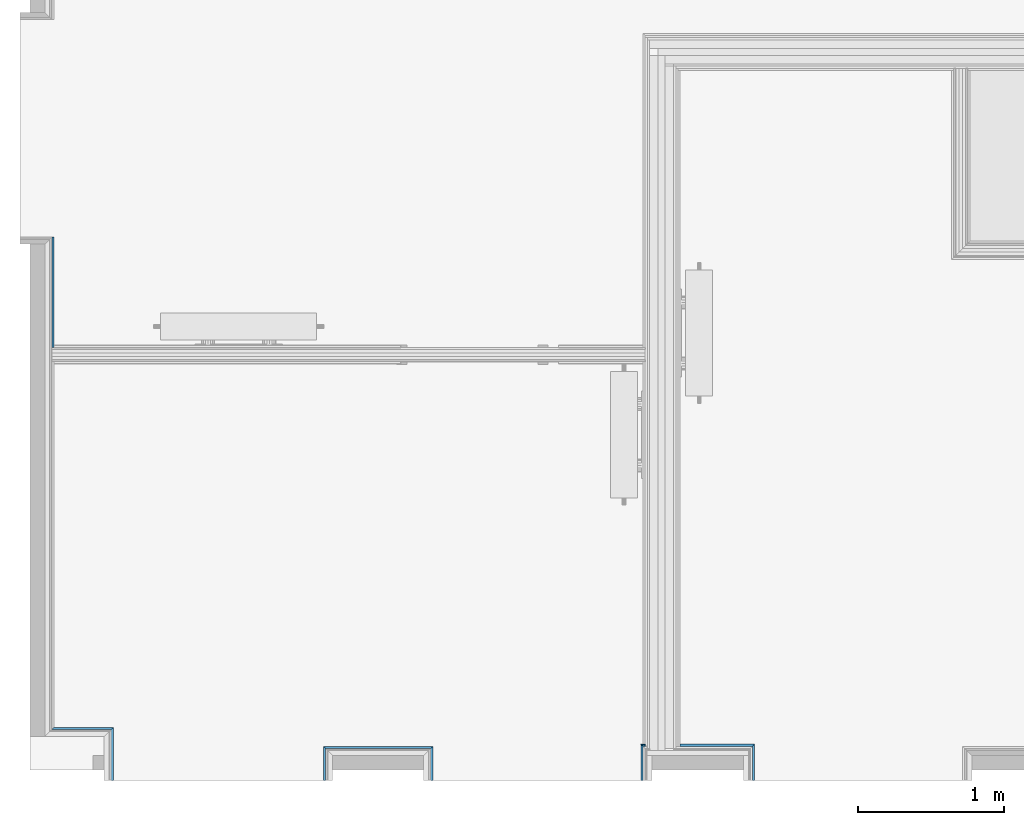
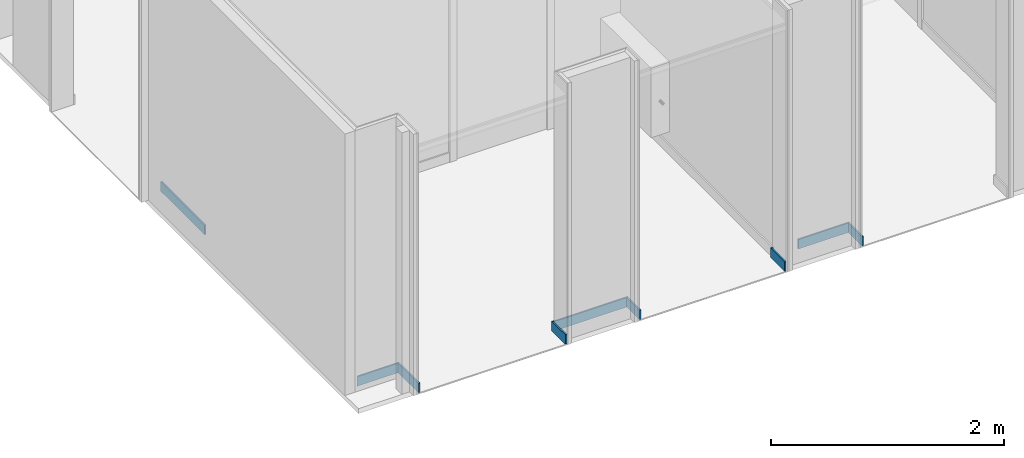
# One storey, part 25 of 85: 10 building element parts, 9 elements without a shape of their own.
"""IFC2X3 building model written with IfcOpenShell, lengths in metres."""

from ifc_helpers import new_model, entity, si_unit, converted_unit, derived_unit, money_unit, direction, frame, frame_2d, origin_with_axes, place, context, subcontext, project, spatial, polyline, rectangle, outline, extrude, material, type_object, element, aggregate, save


model = new_model("IFC2X3")

# Units and contexts
model_context = context("Model", 3, precision=1e-05, world=origin_with_axes(), true_north=direction((0.0, 1.0)))
body_context = subcontext(model_context, "Body", "Model", "MODEL_VIEW", scale=1.0)
ifc_project = project(units=[si_unit("LENGTHUNIT", "METRE"), si_unit("AREAUNIT", "SQUARE_METRE"), si_unit("VOLUMEUNIT", "CUBIC_METRE"), si_unit("ABSORBEDDOSEUNIT", "GRAY"), si_unit("AMOUNTOFSUBSTANCEUNIT", "MOLE"), si_unit("DOSEEQUIVALENTUNIT", "SIEVERT"), si_unit("ELECTRICCAPACITANCEUNIT", "FARAD"), si_unit("ELECTRICCHARGEUNIT", "COULOMB"), si_unit("ELECTRICCONDUCTANCEUNIT", "SIEMENS"), si_unit("ELECTRICCURRENTUNIT", "AMPERE"), si_unit("ELECTRICRESISTANCEUNIT", "OHM"), si_unit("ELECTRICVOLTAGEUNIT", "VOLT"), si_unit("ENERGYUNIT", "JOULE"), si_unit("FORCEUNIT", "NEWTON"), si_unit("FREQUENCYUNIT", "HERTZ"), si_unit("ILLUMINANCEUNIT", "LUX"), si_unit("INDUCTANCEUNIT", "HENRY"), si_unit("LUMINOUSFLUXUNIT", "LUMEN"), si_unit("LUMINOUSINTENSITYUNIT", "CANDELA"), si_unit("MAGNETICFLUXDENSITYUNIT", "TESLA"), si_unit("MAGNETICFLUXUNIT", "WEBER"), si_unit("MASSUNIT", "GRAM"), converted_unit("PLANEANGLEUNIT", "degree", entity("IfcReal", 0.0174532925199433), si_unit("PLANEANGLEUNIT", "RADIAN"), dimensions=[0, 0, 0, 0, 0, 0, 0]), si_unit("POWERUNIT", "WATT"), si_unit("PRESSUREUNIT", "PASCAL"), si_unit("RADIOACTIVITYUNIT", "BECQUEREL"), si_unit("SOLIDANGLEUNIT", "STERADIAN"), si_unit("THERMODYNAMICTEMPERATUREUNIT", "KELVIN"), si_unit("TIMEUNIT", "SECOND"), derived_unit("ACCELERATIONUNIT", [(si_unit("LENGTHUNIT", "METRE"), 1), (si_unit("TIMEUNIT", "SECOND"), -2)]), derived_unit("ANGULARVELOCITYUNIT", [(converted_unit("PLANEANGLEUNIT", "degree", entity("IfcReal", 0.0174532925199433), si_unit("PLANEANGLEUNIT", "RADIAN"), dimensions=[0, 0, 0, 0, 0, 0, 0]), 1), (si_unit("TIMEUNIT", "SECOND"), -1)]), derived_unit("CURVATUREUNIT", [(converted_unit("PLANEANGLEUNIT", "degree", entity("IfcReal", 0.0174532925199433), si_unit("PLANEANGLEUNIT", "RADIAN"), dimensions=[0, 0, 0, 0, 0, 0, 0]), 1), (si_unit("LENGTHUNIT", "METRE"), -1)]), derived_unit("DYNAMICVISCOSITYUNIT", [(si_unit("PRESSUREUNIT", "PASCAL"), 1), (si_unit("TIMEUNIT", "SECOND"), 1)]), derived_unit("HEATFLUXDENSITYUNIT", [(si_unit("POWERUNIT", "WATT"), 1), (si_unit("LENGTHUNIT", "METRE"), -2)]), derived_unit("HEATINGVALUEUNIT", [(si_unit("ENERGYUNIT", "JOULE"), 1), (si_unit("MASSUNIT", "GRAM"), -1)]), derived_unit("INTEGERCOUNTRATEUNIT", [(si_unit("TIMEUNIT", "SECOND"), -1)]), derived_unit("IONCONCENTRATIONUNIT", [(si_unit("MASSUNIT", "GRAM"), 1), (si_unit("VOLUMEUNIT", "CUBIC_METRE"), -1)]), derived_unit("ISOTHERMALMOISTURECAPACITYUNIT", [(si_unit("VOLUMEUNIT", "CUBIC_METRE"), 1), (si_unit("MASSUNIT", "GRAM"), -1)]), derived_unit("KINEMATICVISCOSITYUNIT", [(si_unit("AREAUNIT", "SQUARE_METRE"), 1), (si_unit("TIMEUNIT", "SECOND"), -1)]), derived_unit("LINEARFORCEUNIT", [(si_unit("FORCEUNIT", "NEWTON"), 1), (si_unit("LENGTHUNIT", "METRE"), -1)]), derived_unit("LINEARMOMENTUNIT", [(si_unit("FORCEUNIT", "NEWTON"), 1), (si_unit("LENGTHUNIT", "METRE"), -1)]), derived_unit("LINEARSTIFFNESSUNIT", [(si_unit("FORCEUNIT", "NEWTON"), 1), (si_unit("LENGTHUNIT", "METRE"), -1)]), derived_unit("LINEARVELOCITYUNIT", [(si_unit("LENGTHUNIT", "METRE"), 1), (si_unit("TIMEUNIT", "SECOND"), -1)]), derived_unit("LUMINOUSINTENSITYDISTRIBUTIONUNIT", [(si_unit("LUMINOUSINTENSITYUNIT", "CANDELA"), 1), (si_unit("LUMINOUSFLUXUNIT", "LUMEN"), -1)]), derived_unit("MASSDENSITYUNIT", [(si_unit("MASSUNIT", "GRAM"), 1), (si_unit("VOLUMEUNIT", "CUBIC_METRE"), -1)]), derived_unit("MASSFLOWRATEUNIT", [(si_unit("MASSUNIT", "GRAM"), 1), (si_unit("TIMEUNIT", "SECOND"), -1)]), derived_unit("MASSPERLENGTHUNIT", [(si_unit("MASSUNIT", "GRAM"), 1), (si_unit("LENGTHUNIT", "METRE"), -1)]), derived_unit("MODULUSOFELASTICITYUNIT", [(si_unit("FORCEUNIT", "NEWTON"), 1), (si_unit("AREAUNIT", "SQUARE_METRE"), -1)]), derived_unit("MODULUSOFLINEARSUBGRADEREACTIONUNIT", [(si_unit("FORCEUNIT", "NEWTON"), 1), (si_unit("LENGTHUNIT", "METRE"), -2)]), derived_unit("MODULUSOFROTATIONALSUBGRADEREACTIONUNIT", [(si_unit("FORCEUNIT", "NEWTON"), 1), (si_unit("LENGTHUNIT", "METRE"), 1)]), derived_unit("MODULUSOFSUBGRADEREACTIONUNIT", [(si_unit("FORCEUNIT", "NEWTON"), 1), (si_unit("VOLUMEUNIT", "CUBIC_METRE"), -1)]), derived_unit("MOISTUREDIFFUSIVITYUNIT", [(si_unit("VOLUMEUNIT", "CUBIC_METRE"), 1), (si_unit("TIMEUNIT", "SECOND"), -1)]), derived_unit("MOLECULARWEIGHTUNIT", [(si_unit("MASSUNIT", "GRAM"), 1), (si_unit("AMOUNTOFSUBSTANCEUNIT", "MOLE"), -1)]), derived_unit("PLANARFORCEUNIT", [(si_unit("FORCEUNIT", "NEWTON"), 1), (si_unit("LENGTHUNIT", "METRE"), -2)]), derived_unit("ROTATIONALFREQUENCYUNIT", [(si_unit("TIMEUNIT", "SECOND"), -1)]), derived_unit("ROTATIONALMASSUNIT", [(si_unit("MASSUNIT", "GRAM"), 1), (si_unit("LENGTHUNIT", "METRE"), 2)]), derived_unit("ROTATIONALSTIFFNESSUNIT", [(si_unit("FORCEUNIT", "NEWTON"), 1), (si_unit("LENGTHUNIT", "METRE"), 1), (converted_unit("PLANEANGLEUNIT", "degree", entity("IfcReal", 0.0174532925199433), si_unit("PLANEANGLEUNIT", "RADIAN"), dimensions=[0, 0, 0, 0, 0, 0, 0]), -1)]), derived_unit("SECTIONAREAINTEGRALUNIT", [(si_unit("LENGTHUNIT", "METRE"), 5)]), derived_unit("SECTIONMODULUSUNIT", [(si_unit("LENGTHUNIT", "METRE"), 3)]), derived_unit("SHEARMODULUSUNIT", [(si_unit("FORCEUNIT", "NEWTON"), 1), (si_unit("AREAUNIT", "SQUARE_METRE"), -1)]), derived_unit("SOUNDPOWERUNIT", [(si_unit("ENERGYUNIT", "JOULE"), 1), (si_unit("TIMEUNIT", "SECOND"), -1)]), derived_unit("SPECIFICHEATCAPACITYUNIT", [(si_unit("FORCEUNIT", "NEWTON"), 1), (si_unit("MASSUNIT", "GRAM"), -1), (si_unit("THERMODYNAMICTEMPERATUREUNIT", "KELVIN"), -1)]), derived_unit("TEMPERATUREGRADIENTUNIT", [(si_unit("THERMODYNAMICTEMPERATUREUNIT", "KELVIN"), 1), (si_unit("LENGTHUNIT", "METRE"), -1)]), derived_unit("THERMALADMITTANCEUNIT", [(si_unit("POWERUNIT", "WATT"), 1), (si_unit("AREAUNIT", "SQUARE_METRE"), -1), (si_unit("THERMODYNAMICTEMPERATUREUNIT", "KELVIN"), -1)]), derived_unit("THERMALCONDUCTANCEUNIT", [(si_unit("POWERUNIT", "WATT"), 1), (si_unit("LENGTHUNIT", "METRE"), -1), (si_unit("THERMODYNAMICTEMPERATUREUNIT", "KELVIN"), -1)]), derived_unit("THERMALEXPANSIONCOEFFICIENTUNIT", [(si_unit("THERMODYNAMICTEMPERATUREUNIT", "KELVIN"), -1)]), derived_unit("THERMALRESISTANCEUNIT", [(si_unit("AREAUNIT", "SQUARE_METRE"), 1), (si_unit("POWERUNIT", "WATT"), -1)]), derived_unit("THERMALTRANSMITTANCEUNIT", [(si_unit("POWERUNIT", "WATT"), 1), (si_unit("AREAUNIT", "SQUARE_METRE"), -1), (si_unit("THERMODYNAMICTEMPERATUREUNIT", "KELVIN"), -1)]), derived_unit("TORQUEUNIT", [(si_unit("FORCEUNIT", "NEWTON"), 1), (si_unit("LENGTHUNIT", "METRE"), 1)]), derived_unit("VAPORPERMEABILITYUNIT", [(si_unit("MASSUNIT", "GRAM"), 1), (si_unit("TIMEUNIT", "SECOND"), -1)]), derived_unit("VOLUMETRICFLOWRATEUNIT", [(si_unit("VOLUMEUNIT", "CUBIC_METRE"), 1), (si_unit("TIMEUNIT", "SECOND"), -1)]), derived_unit("WARPINGCONSTANTUNIT", [(si_unit("LENGTHUNIT", "METRE"), 6)]), derived_unit("WARPINGMOMENTUNIT", [(si_unit("FORCEUNIT", "NEWTON"), 1), (si_unit("LENGTHUNIT", "METRE"), 2)]), money_unit("GBP")], contexts=[model_context])

# Site, building, storey
site_placement = place(None, origin_with_axes())
site = spatial("IfcSite", under=ifc_project, at=site_placement, Name="Site", CompositionType="ELEMENT")
building_placement = place(site_placement, origin_with_axes())
building = spatial("IfcBuilding", under=site, at=building_placement, Name="Building01", CompositionType="ELEMENT")
storey_placement = place(building_placement, frame((0.0, 0.0, 12.13), z_axis=(0.0, 0.0, 1.0), x_axis=(1.0, 0.0, 0.0)))
storey = spatial("IfcBuildingStorey", under=building, at=storey_placement, Name="3F", CompositionType="ELEMENT", Elevation=12.13)

# Wall, building element part
wall_type_1 = type_object("IfcWallType", Name="SHE_A-Walls_Type06d_ExternalWallInsulation_48mm", PredefinedType="NOTDEFINED")
wall_1_placement = place(storey_placement, frame((0.27, 0.4, 0.0), z_axis=(0.0, 0.0, 1.0), x_axis=(1.0, 0.0, 0.0)))
wall_1 = element("IfcWall", 1, at=wall_1_placement, inside=storey, type_object=wall_type_1, Name="6D", ObjectType="SHE_A-Walls_Type06d_ExternalWallInsulation_48mm")
ifc_material = material(Name="A_BSUK_Walls_Timber")
building_element_part_1_placement = place(wall_1_placement, origin_with_axes())
building_element_part_1 = element("IfcBuildingElementPart", 2, at=building_element_part_1_placement, material=ifc_material, Name="3", context=body_context, shape_type="SweptSolid", body=[
    extrude(outline(polyline([(0.47, 0.063), (0.063, 0.063), (0.048, 0.048), (0.455, 0.048), (0.47, 0.063)])), frame((0.0, 0.0, 0.015), z_axis=(0.0, 0.0, 1.0), x_axis=(1.0, 0.0, 0.0)), (0.0, 0.0, 1.0), 0.1),
])
aggregate(wall_1, [building_element_part_1])

wall_2_placement = place(storey_placement, frame((0.677, 0.4, 0.0), z_axis=(0.0, 0.0, 1.0), x_axis=(0.0, -1.0, 0.0)))
wall_2 = element("IfcWall", 3, at=wall_2_placement, inside=storey, type_object=wall_type_1, Name="6D", ObjectType="SHE_A-Walls_Type06d_ExternalWallInsulation_48mm")
building_element_part_2_placement = place(wall_2_placement, origin_with_axes())
building_element_part_2 = element("IfcBuildingElementPart", 4, at=building_element_part_2_placement, material=ifc_material, Name="3", context=body_context, shape_type="SweptSolid", body=[
    extrude(outline(polyline([(-0.063, 0.063), (-0.048, 0.048), (0.3, 0.048), (0.3, 0.063), (-0.063, 0.063)])), frame((0.0, 0.0, 0.015), z_axis=(0.0, 0.0, 1.0), x_axis=(1.0, 0.0, 0.0)), (0.0, 0.0, 1.0), 0.1),
])
aggregate(wall_2, [building_element_part_2])

wall_3_placement = place(storey_placement, frame((2.243, 0.1, 0.0), z_axis=(0.0, 0.0, 1.0), x_axis=(0.0, 1.0, 0.0)))
wall_3 = element("IfcWall", 5, at=wall_3_placement, inside=storey, type_object=wall_type_1, Name="6D", ObjectType="SHE_A-Walls_Type06d_ExternalWallInsulation_48mm")
building_element_part_3_placement = place(wall_3_placement, origin_with_axes())
building_element_part_3 = element("IfcBuildingElementPart", 6, at=building_element_part_3_placement, material=ifc_material, Name="3", context=body_context, shape_type="SweptSolid", body=[
    extrude(outline(polyline([(0.233, 0.063), (0.0, 0.063), (0.0, 0.048), (0.218, 0.048), (0.233, 0.063)])), frame((0.0, 0.0, 0.015), z_axis=(0.0, 0.0, 1.0), x_axis=(1.0, 0.0, 0.0)), (0.0, 0.0, 1.0), 0.1),
])
aggregate(wall_3, [building_element_part_3])

wall_4_placement = place(storey_placement, frame((2.243, 0.27, 0.0), z_axis=(0.0, 0.0, 1.0), x_axis=(1.0, 0.0, 0.0)))
wall_4 = element("IfcWall", 7, at=wall_4_placement, inside=storey, type_object=wall_type_1, Name="6D", ObjectType="SHE_A-Walls_Type06d_ExternalWallInsulation_48mm")
building_element_part_4_placement = place(wall_4_placement, origin_with_axes())
building_element_part_4 = element("IfcBuildingElementPart", 8, at=building_element_part_4_placement, material=ifc_material, Name="3", context=body_context, shape_type="SweptSolid", body=[
    extrude(outline(polyline([(0.687, 0.063), (-0.063, 0.063), (-0.048, 0.048), (0.672, 0.048), (0.687, 0.063)])), frame((0.0, 0.0, 0.015), z_axis=(0.0, 0.0, 1.0), x_axis=(1.0, 0.0, 0.0)), (0.0, 0.0, 1.0), 0.1),
])
aggregate(wall_4, [building_element_part_4])

wall_5_placement = place(storey_placement, frame((2.867, 0.27, 0.0), z_axis=(0.0, 0.0, 1.0), x_axis=(0.0, -1.0, 0.0)))
wall_5 = element("IfcWall", 9, at=wall_5_placement, inside=storey, type_object=wall_type_1, Name="6D", ObjectType="SHE_A-Walls_Type06d_ExternalWallInsulation_48mm")
building_element_part_5_placement = place(wall_5_placement, origin_with_axes())
building_element_part_5 = element("IfcBuildingElementPart", 10, at=building_element_part_5_placement, material=ifc_material, Name="3", context=body_context, shape_type="SweptSolid", body=[
    extrude(outline(polyline([(-0.063, 0.063), (-0.048, 0.048), (0.17, 0.048), (0.17, 0.063), (-0.063, 0.063)])), frame((0.0, 0.0, 0.015), z_axis=(0.0, 0.0, 1.0), x_axis=(1.0, 0.0, 0.0)), (0.0, 0.0, 1.0), 0.1),
])
aggregate(wall_5, [building_element_part_5])

wall_6_placement = place(storey_placement, frame((0.27, 3.77418, 0.0), z_axis=(0.0, 0.0, 1.0), x_axis=(0.0, -1.0, 0.0)))
wall_6 = element("IfcWall", 11, at=wall_6_placement, inside=storey, type_object=wall_type_1, Name="6D", ObjectType="SHE_A-Walls_Type06d_ExternalWallInsulation_48mm")
building_element_part_6_placement = place(wall_6_placement, origin_with_axes())
building_element_part_6 = element("IfcBuildingElementPart", 12, at=building_element_part_6_placement, material=ifc_material, Name="3", context=body_context, shape_type="SweptSolid", body=[
    extrude(rectangle(XDim=0.756894, YDim=0.015, at=frame_2d((0.330447, 0.0555), x_axis=(-1.0, 0.0))), frame((0.0, 0.0, 0.015), z_axis=(0.0, 0.0, 1.0), x_axis=(1.0, 0.0, 0.0)), (0.0, 0.0, 1.0), 0.1),
])
aggregate(wall_6, [building_element_part_6])

wall_type_2 = type_object("IfcWallType", Name="SHE_A-Walls_Type06f_ExternalWallInsulation_48+15mm", PredefinedType="NOTDEFINED")
wall_7_placement = place(storey_placement, frame((4.433, 0.1, 0.0), z_axis=(0.0, 0.0, 1.0), x_axis=(0.0, -1.0, 0.0)))
wall_7 = element("IfcWall", 13, at=wall_7_placement, inside=storey, type_object=wall_type_2, Name="6F", ObjectType="SHE_A-Walls_Type06f_ExternalWallInsulation_48+15mm")
building_element_part_7_placement = place(wall_7_placement, origin_with_axes())
building_element_part_7 = element("IfcBuildingElementPart", 14, at=building_element_part_7_placement, material=ifc_material, Name="1", context=body_context, shape_type="SweptSolid", body=[
    extrude(outline(polyline([(-0.248, -0.078), (0.0, -0.078), (0.0, -0.063), (-0.233, -0.063), (-0.248, -0.078)])), frame((0.0, 0.0, 0.015), z_axis=(0.0, 0.0, 1.0), x_axis=(1.0, 0.0, 0.0)), (0.0, 0.0, 1.0), 0.1),
])
aggregate(wall_7, [building_element_part_7])

wall_8_placement = place(storey_placement, frame((5.057124, 0.1, 0.0), z_axis=(0.0, 0.0, 1.0), x_axis=(0.0, -1.0, 0.0)))
wall_8 = element("IfcWall", 15, at=wall_8_placement, inside=storey, type_object=wall_type_2, Name="6F", ObjectType="SHE_A-Walls_Type06f_ExternalWallInsulation_48+15mm")
building_element_part_8_placement = place(wall_8_placement, origin_with_axes())
building_element_part_8 = element("IfcBuildingElementPart", 16, at=building_element_part_8_placement, material=ifc_material, Name="4", context=body_context, shape_type="SweptSolid", body=[
    extrude(outline(polyline([(-0.233, 0.063), (0.0, 0.063), (0.0, 0.078), (-0.248, 0.078), (-0.233, 0.063)])), frame((0.0, 0.0, 0.015), z_axis=(0.0, 0.0, 1.0), x_axis=(1.0, 0.0, 0.0)), (0.0, 0.0, 1.0), 0.1),
])
aggregate(wall_8, [building_element_part_8])

# Wall, building element parts
wall_9_placement = place(storey_placement, frame((5.093124, 0.27, 0.0), z_axis=(0.0, 0.0, 1.0), x_axis=(-1.0, 0.0, 0.0)))
wall_9 = element("IfcWall", 17, at=wall_9_placement, inside=storey, type_object=wall_type_2, Name="6F", ObjectType="SHE_A-Walls_Type06f_ExternalWallInsulation_48+15mm")
placement = place(wall_9_placement, origin_with_axes())
building_element_part_9 = element("IfcBuildingElementPart", 18, at=placement, material=ifc_material, Name="1", context=body_context, shape_type="SweptSolid", body=[
    extrude(outline(polyline([(0.468124, -0.063), (-0.027, -0.063), (-0.042, -0.078), (0.468124, -0.078), (0.468124, -0.063)])), frame((0.0, 0.0, 0.015), z_axis=(0.0, 0.0, 1.0), x_axis=(1.0, 0.0, 0.0)), (0.0, 0.0, 1.0), 0.1),
])
building_element_part_10 = element("IfcBuildingElementPart", 19, at=placement, material=ifc_material, Name="2", context=body_context, shape_type="SweptSolid", body=[
    extrude(outline(polyline([(0.723124, -0.063), (0.70823, -0.063), (0.70823, -0.078), (0.738124, -0.078), (0.723124, -0.063)])), frame((0.0, 0.0, 0.015), z_axis=(0.0, 0.0, 1.0), x_axis=(1.0, 0.0, 0.0)), (0.0, 0.0, 1.0), 0.1),
])
aggregate(wall_9, [building_element_part_9, building_element_part_10])

save(model, "model.ifc")
